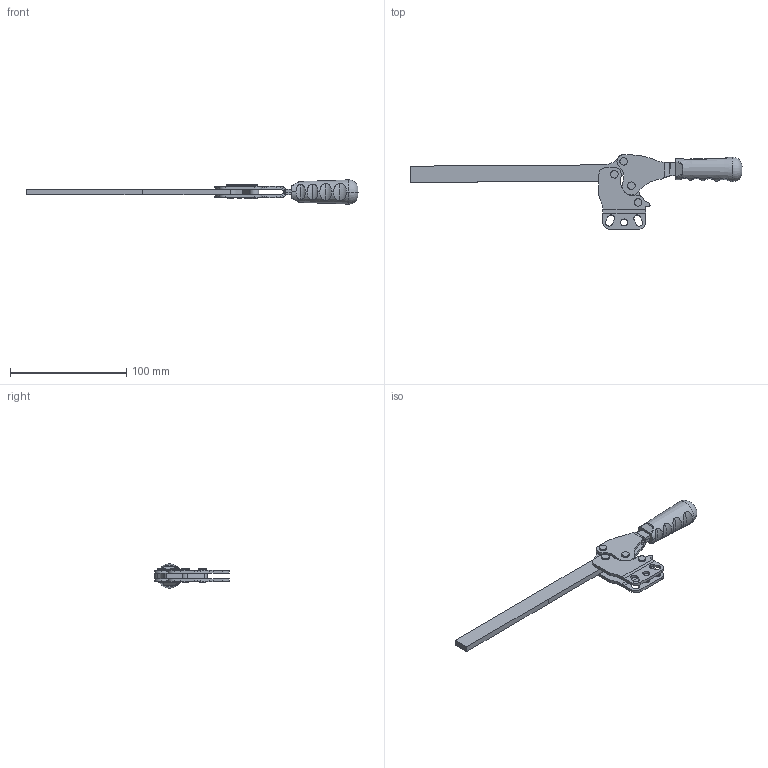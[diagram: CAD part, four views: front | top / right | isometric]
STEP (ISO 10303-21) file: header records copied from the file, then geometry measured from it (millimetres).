
FILE_DESCRIPTION (( 'STEP AP203' ), '1' );
FILE_NAME ('1262_D_L_MONTAJ.STEP', '2022-04-26T13:50:09', ( '' ), ( '' ), 'SwSTEP 2.0', 'SolidWorks 2020', '' );
FILE_SCHEMA (( 'CONFIG_CONTROL_DESIGN' ));
Length unit declared in the file: millimetre
Products named in the file (9): 1262 Hareket Kolu; Aynalama1262 Y-D Gövde; 1262_D_L_MONTAJ; 4x12_5_PERﾇﾝN; 1262-L3 Lama Baský Kolu; Aynalama1262 Hareket Kolu; 1262 Y-D Gövde; 1262 Mafsal; C55_Yeni_Tutamak
Assembly tree (11 placements, depth 2):
  1262_D_L_MONTAJ
    1262 Y-D Gövde
    1262 Hareket Kolu
    1262 Mafsal
    Aynalama1262 Hareket Kolu
    Aynalama1262 Y-D Gövde
    4x12_5_PERﾇﾝN  x4
    1262-L3 Lama Baský Kolu
    C55_Yeni_Tutamak
Bounding box: 285.91 x 64.29 x 20.98 mm (x, y, z)
Volume: 42727.3 mm3; surface area: 29857.7 mm2
Topology: 11 solids, 11 shells, 636 faces, 1648 edges, 1058 vertices
Faces by surface type: plane 377, cylinder 186, bspline 37, torus 34, cone 2
Entity records: 17869 total; most frequent: CARTESIAN_POINT 5331, ORIENTED_EDGE 2456, DIRECTION 2294, EDGE_CURVE 1228, VERTEX_POINT 794, LINE 792, VECTOR 792, AXIS2_PLACEMENT_3D 751
